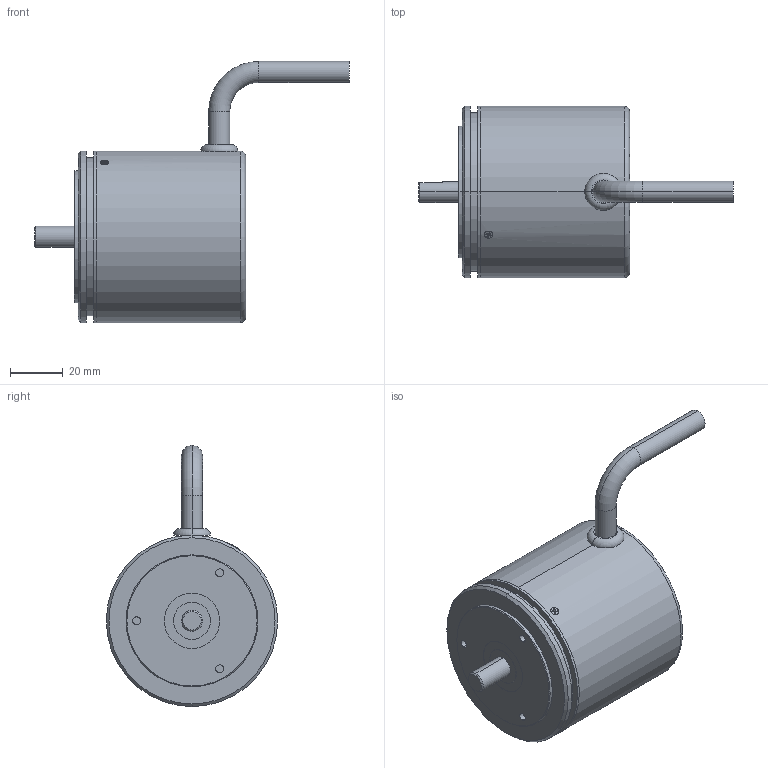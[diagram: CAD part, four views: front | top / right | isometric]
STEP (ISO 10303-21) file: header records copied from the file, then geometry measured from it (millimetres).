
FILE_DESCRIPTION (( 'STEP AP214' ), '1' );
FILE_NAME ('AMシリーズ　マルチターン式ABSエンコーダ＿Bタイプ_Assem1.STEP', '2024-07-22T04:25:02', ( '' ), ( '' ), 'SwSTEP 2.0', 'SolidWorks 2023', '' );
FILE_SCHEMA (( 'AUTOMOTIVE_DESIGN' ));
Length unit declared in the file: millimetre
Products named in the file (4): Flat Head SCREW M2 X6 MM; AM_Bタイプ_Part2; AM_Bタイプ_Part1; AMシリーズ　マルチターン式ABSエンコーダ＿Bタイプ_Assem1
Assembly tree (3 placements, depth 2):
  AMシリーズ　マルチターン式ABSエンコーダ＿Bタイプ_Assem1
    AM_Bタイプ_Part1
    AM_Bタイプ_Part2
    Flat Head SCREW M2 X6 MM
Bounding box: 119.34 x 65 x 99 mm (x, y, z)
Volume: 213181.3 mm3; surface area: 31412 mm2
Topology: 5 solids, 5 shells, 86 faces, 190 edges, 125 vertices
Faces by surface type: cylinder 36, plane 27, cone 13, torus 6, bspline 4
Entity records: 2740 total; most frequent: CARTESIAN_POINT 603, DIRECTION 465, ORIENTED_EDGE 380, AXIS2_PLACEMENT_3D 191, EDGE_CURVE 190, VERTEX_POINT 125, CIRCLE 103, EDGE_LOOP 101
